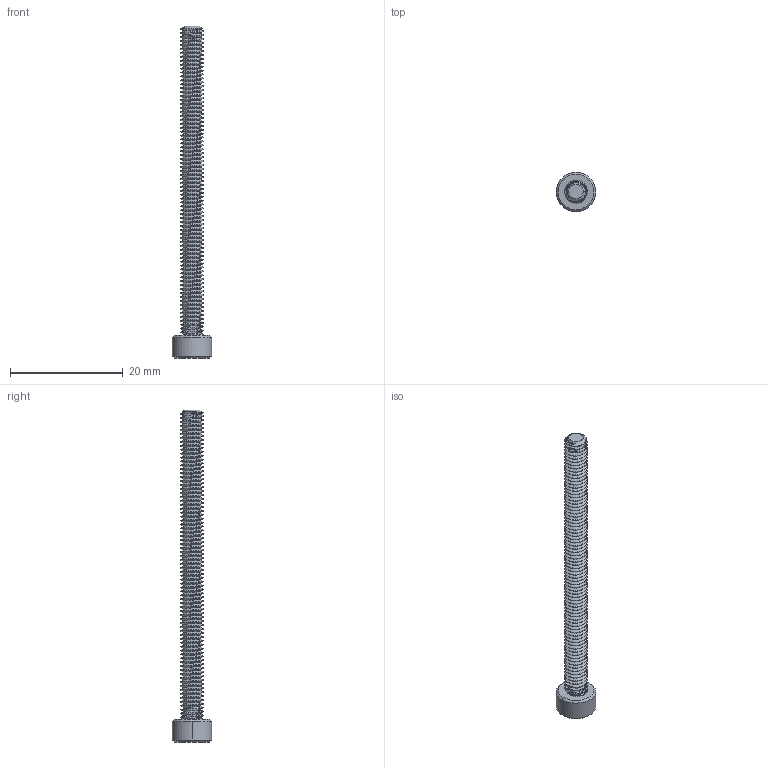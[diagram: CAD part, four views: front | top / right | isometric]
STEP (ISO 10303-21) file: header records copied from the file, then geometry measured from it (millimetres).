
FILE_DESCRIPTION (( 'STEP AP203' ), '1' );
FILE_NAME ('2800-0004-0055.STEP', '2018-05-18T20:53:53', ( '' ), ( '' ), 'SwSTEP 2.0', 'SolidWorks 2016', '' );
FILE_SCHEMA (( 'CONFIG_CONTROL_DESIGN' ));
Length unit declared in the file: millimetre
Products named in the file (1): 2800-0004-0055
Bounding box: 7 x 7 x 59 mm (x, y, z)
Volume: 680.1 mm3; surface area: 1245.7 mm2
Topology: 1 solids, 1 shells, 342 faces, 997 edges, 659 vertices
Faces by surface type: cylinder 317, cone 13, plane 10, bspline 2
Entity records: 18249 total; most frequent: CARTESIAN_POINT 11023, ORIENTED_EDGE 1994, DIRECTION 1060, EDGE_CURVE 997, VERTEX_POINT 659, AXIS2_PLACEMENT_3D 363, EDGE_LOOP 344, ADVANCED_FACE 342
